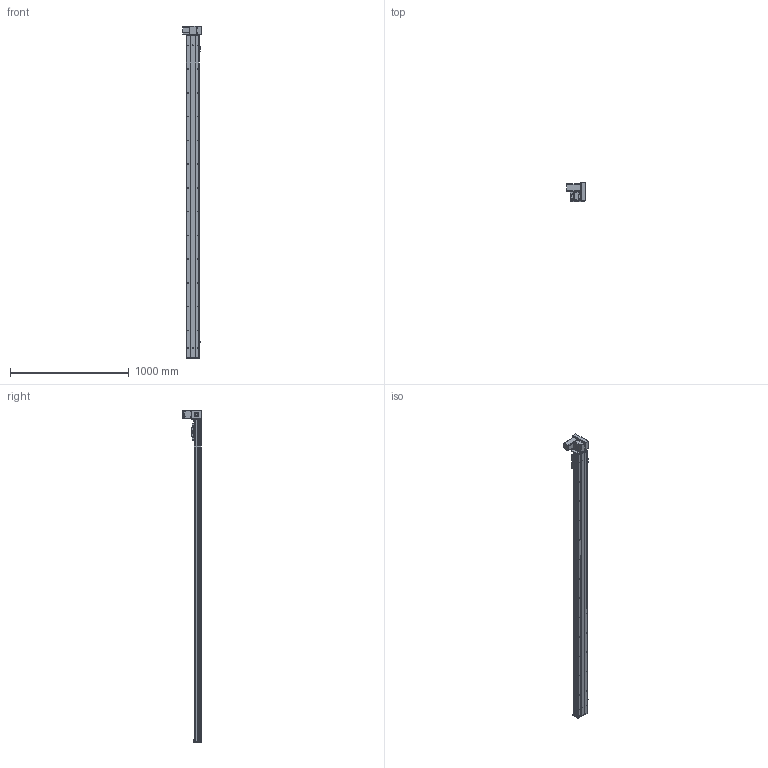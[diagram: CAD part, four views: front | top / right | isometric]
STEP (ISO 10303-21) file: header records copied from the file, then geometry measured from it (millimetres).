
FILE_DESCRIPTION (( 'STEP AP203' ), '1' );
FILE_NAME ('Y10CB-D90-S2450-UR-P400W.STEP', '2020-02-16T04:13:46', ( '微软用户' ), ( '微软中国' ), 'SwSTEP 2.0', 'SolidWorks 2017', '' );
FILE_SCHEMA (( 'CONFIG_CONTROL_DESIGN' ));
Length unit declared in the file: millimetre
Products named in the file (18): Y10B--々湍喘謫眊--666; 0B-源倛裔啣; Y10B-耜蚾蟀諉啣----; 0B-埴倛裔啣; 00B-俋欶BM--; 10CB-詩湍-; Y10CB-D90-S2450-UR-P400W; Y10CB- 掛极耜裔啣-毀---; Y10C---詩湍揤啣; 0CB-雄赽釱---; 10CB9-掛极; 0Cb-俋欶---; 10CB-耜裔; Y10B-々湍喘謫眊楊擘啣--; Y135C-陔俋离換覜結え-; 0B-萇儂楊擘啣; Y100-135俋离換覜ん--; san松下电机400不带刹车----
Assembly tree (21 placements, depth 2):
  Y10CB-D90-S2450-UR-P400W
    0CB-雄赽釱---
    0Cb-俋欶---
    Y10B-々湍喘謫眊楊擘啣--
    0B-萇儂楊擘啣
    san松下电机400不带刹车----
    0B-源倛裔啣
    0B-埴倛裔啣
    10CB-詩湍-
    Y10CB- 掛极耜裔啣-毀---  x2
    Y10C---詩湍揤啣  x2
    10CB9-掛极
    10CB-耜裔
    Y135C-陔俋离換覜結え-
    Y100-135俋离換覜ん--  x3
    Y10B--々湍喘謫眊--666
    Y10B-耜蚾蟀諉啣----
    00B-俋欶BM--
Bounding box: 157 x 155.5 x 2796 mm (x, y, z)
Volume: 5666184.6 mm3; surface area: 2688054.3 mm2
Topology: 21 solids, 21 shells, 1074 faces, 2923 edges, 1898 vertices
Faces by surface type: cylinder 559, plane 491, cone 24
Entity records: 34412 total; most frequent: CARTESIAN_POINT 6505, DIRECTION 5474, ORIENTED_EDGE 5316, EDGE_CURVE 2658, AXIS2_PLACEMENT_3D 1957, VERTEX_POINT 1724, VECTOR 1560, LINE 1560
